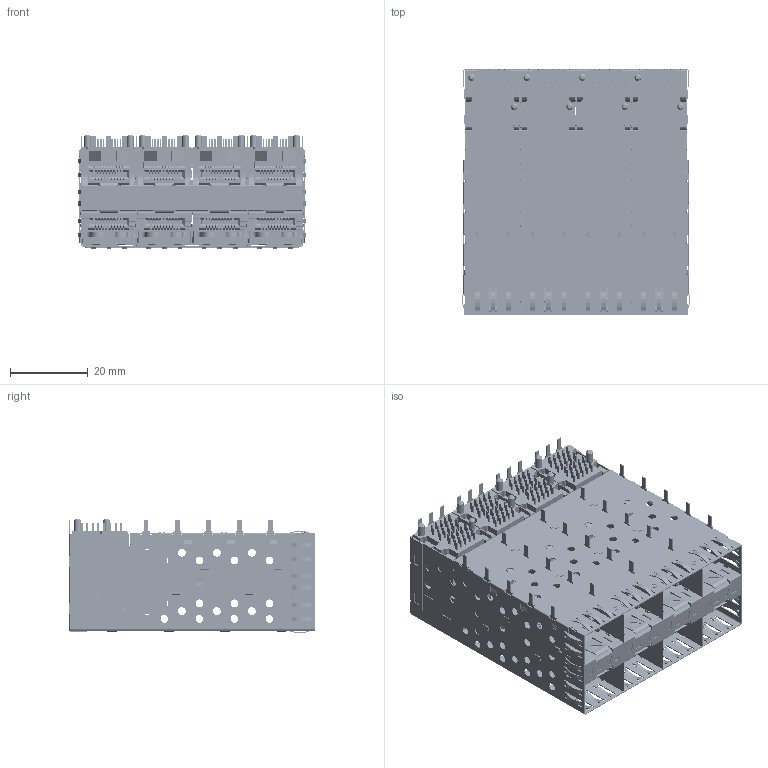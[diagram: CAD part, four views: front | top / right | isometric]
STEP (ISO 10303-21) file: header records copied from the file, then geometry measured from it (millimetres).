
FILE_DESCRIPTION((''),'2;1');
FILE_NAME('PRT0001','2015-01-30T',('Administrator'),(''),'PRO/ENGINEER BY PARAMETRIC TECHNOLOGY CORPORATION, 2009440','PRO/ENGINEER BY PARAMETRIC TECHNOLOGY CORPORATION, 2009440','');
FILE_SCHEMA(('CONFIG_CONTROL_DESIGN'));
Products named in the file (1): PRT0001
Bounding box: 58.65 x 63.4 x 29.45 mm (x, y, z)
Volume: 29804.4 mm3; surface area: 75810.4 mm2
Topology: 17 solids, 57 shells, 17257 faces, 50523 edges, 33085 vertices
Faces by surface type: plane 11729, cylinder 5484, cone 16, sphere 16, bspline 12
Entity records: 574396 total; most frequent: CARTESIAN_POINT 103777, ORIENTED_EDGE 101014, DIRECTION 95254, EDGE_CURVE 50507, VECTOR 39130, LINE 39130, VERTEX_POINT 33093, AXIS2_PLACEMENT_3D 28062
